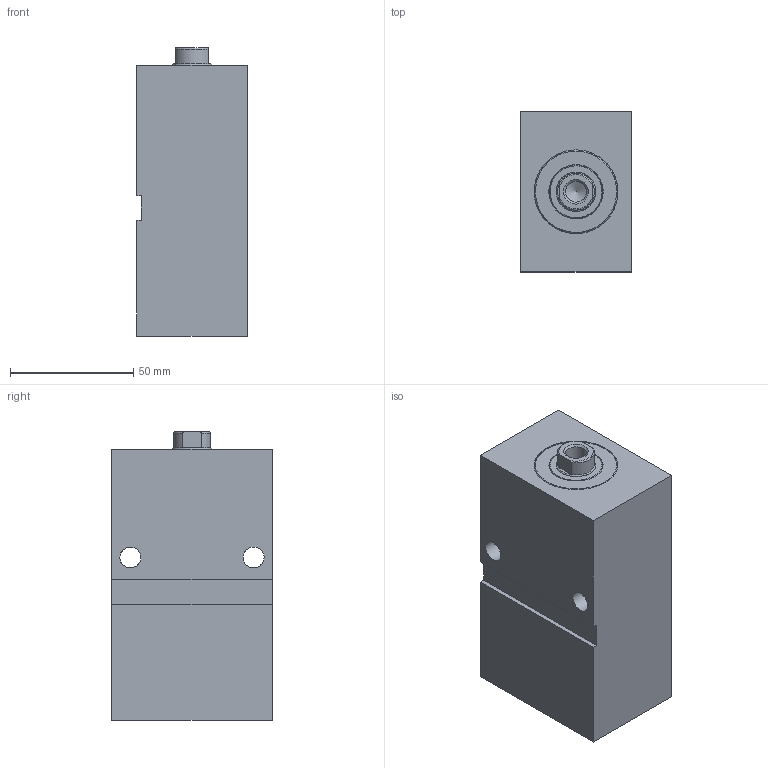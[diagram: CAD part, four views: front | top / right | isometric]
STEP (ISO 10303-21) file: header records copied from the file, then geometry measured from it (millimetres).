
FILE_DESCRIPTION( ( 'STEP AP203' ), '1' );
FILE_NAME( 'C:/Users/SAYKO.ltd/Desktop/SBZ100/03/SBZ100-25/SBZ100.25__FORM_03_STROKE_45__H2_58_POS_0_.stp', ' ', ( ' ' ), ( ' ' ), 'PSStep 15.0.47', 'PARTsolutions', ' ' );
FILE_SCHEMA( ( 'CONFIG_CONTROL_DESIGN' ) );
Length unit declared in the file: millimetre
Products named in the file (5): SBZ100.25  FORM=03 STROKE=45 (H2=58 POS=0); HI_SBZ10025  FORM=03 STROKE=45 H2=58 -C; HI_SBZ10025  FORM=03 STROKE=45-R; HI_SBZ100.25-C; HI_SBZ100.25-S
Assembly tree (4 placements, depth 2):
  SBZ100.25  FORM=03 STROKE=45 (H2=58 POS=0)
    HI_SBZ10025  FORM=03 STROKE=45 H2=58 -C
    HI_SBZ10025  FORM=03 STROKE=45-R
    HI_SBZ100.25-C
    HI_SBZ100.25-S
Bounding box: 45 x 65 x 117 mm (x, y, z)
Volume: 298877.7 mm3; surface area: 56259.2 mm2
Topology: 4 solids, 4 shells, 60 faces, 124 edges, 81 vertices
Faces by surface type: plane 31, cylinder 22, cone 4, torus 3
Full cylindrical faces by diameter (mm): 3 x2, 8.376 x1, 8.5 x2, 11.445 x2, 16 x6, 22 x1, 24 x2, 25 x2, 34 x2
Entity records: 3143 total; most frequent: CARTESIAN_POINT 1971, ORIENTED_EDGE 176, DIRECTION 154, EDGE_LOOP 108, EDGE_CURVE 88, FACE_OUTER_BOUND 81, VERTEX_POINT 73, AXIS2_PLACEMENT_3D 65
